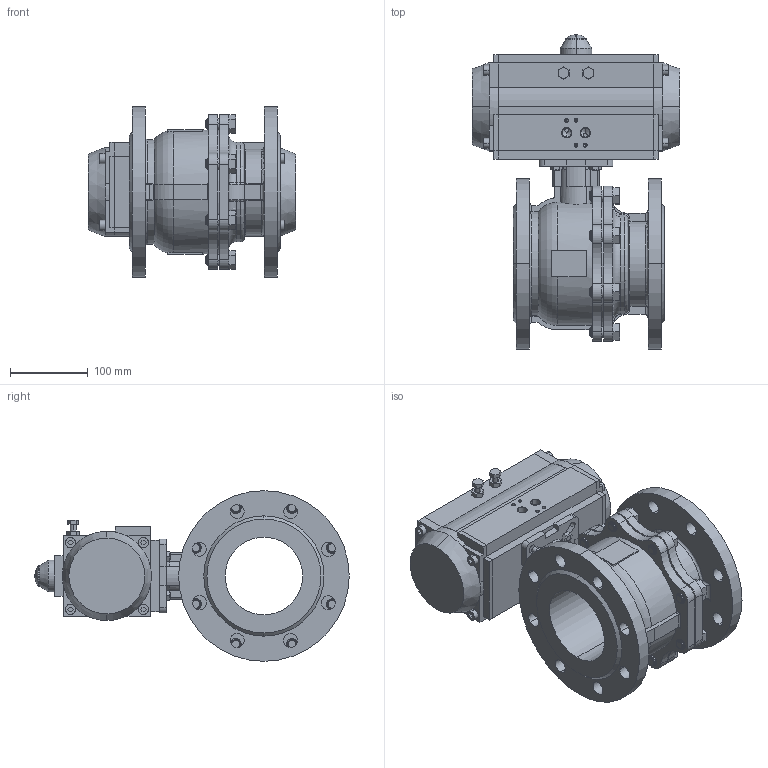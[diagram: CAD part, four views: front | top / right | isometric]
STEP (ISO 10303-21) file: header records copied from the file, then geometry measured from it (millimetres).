
FILE_DESCRIPTION((''),'2;1');
FILE_NAME('BV-22F_RPA_ASM','2024-09-11T',('USER'),(''),'PRO/ENGINEER BY PARAMETRIC TECHNOLOGY CORPORATION, 2011220','PRO/ENGINEER BY PARAMETRIC TECHNOLOGY CORPORATION, 2011220','');
FILE_SCHEMA(('CONFIG_CONTROL_DESIGN'));
Length unit declared in the file: millimetre
Products named in the file (12): KORPUS_KRAN_FL; BOLT_M14X30; SB_KRAN_FL_ASM; KORPUS_PNEVMOPRIVOD; KOLCO_25_GOST13942; KRISKA_VERX; VINT; KRISKA_LEFT; KRISKA_RIGHT; SB_PNEVMOPRIVOD_ASM; B-7798-M8-16; BV-22F_RPA_ASM
Assembly tree (21 placements, depth 3):
  BV-22F_RPA_ASM
    SB_KRAN_FL_ASM
      KORPUS_KRAN_FL
      BOLT_M14X30  x8
    SB_PNEVMOPRIVOD_ASM
      KORPUS_PNEVMOPRIVOD
      KOLCO_25_GOST13942
      KRISKA_VERX
      VINT
      KRISKA_LEFT
      KRISKA_RIGHT
    B-7798-M8-16  x4
Bounding box: 268 x 405.45 x 220 mm (x, y, z)
Volume: 6421373.6 mm3; surface area: 636043.8 mm2
Topology: 19 solids, 61 shells, 952 faces, 2465 edges, 1589 vertices
Faces by surface type: plane 450, cylinder 378, cone 82, bspline 20, torus 20, sphere 2
Entity records: 26334 total; most frequent: CARTESIAN_POINT 5908, DIRECTION 4393, ORIENTED_EDGE 3994, EDGE_CURVE 2063, AXIS2_PLACEMENT_3D 1606, VERTEX_POINT 1357, VECTOR 1181, LINE 1181
